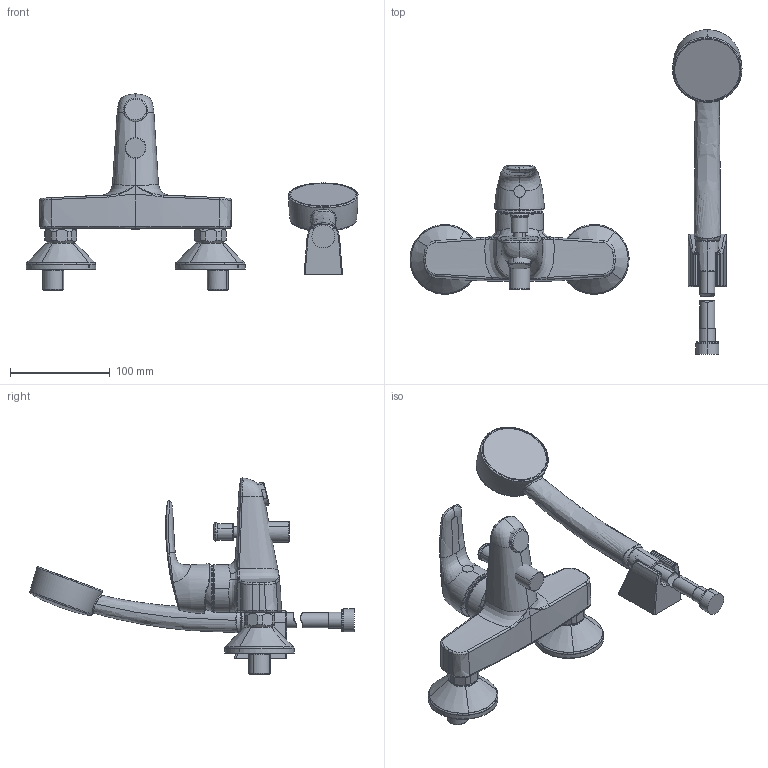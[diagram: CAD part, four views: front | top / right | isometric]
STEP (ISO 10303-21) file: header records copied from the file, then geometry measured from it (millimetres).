
FILE_DESCRIPTION (( 'STEP AP203' ), '1' );
FILE_NAME ('1041U(2017).STEP', '2018-04-18T06:20:42', ( '' ), ( '' ), 'SwSTEP 2.0', 'SolidWorks 2016', '' );
FILE_SCHEMA (( 'CONFIG_CONTROL_DESIGN' ));
Products named in the file (1): 1041U(2017)
Bounding box: 333.36 x 325.85 x 196.93 mm (x, y, z)
Volume: 863833.6 mm3; surface area: 154704.5 mm2
Topology: 16 solids, 16 shells, 564 faces, 1326 edges, 793 vertices
Faces by surface type: bspline 231, cylinder 155, plane 94, torus 40, cone 28, sphere 16
Entity records: 55019 total; most frequent: CARTESIAN_POINT 43867, ORIENTED_EDGE 2618, DIRECTION 1836, EDGE_CURVE 1309, AXIS2_PLACEMENT_3D 791, VERTEX_POINT 791, EDGE_LOOP 582, FACE_OUTER_BOUND 564
